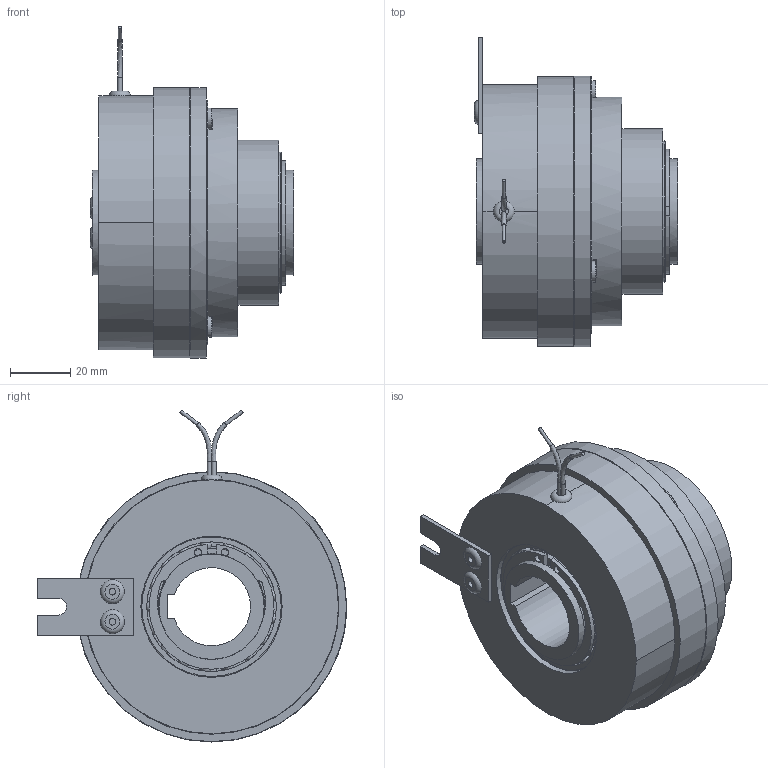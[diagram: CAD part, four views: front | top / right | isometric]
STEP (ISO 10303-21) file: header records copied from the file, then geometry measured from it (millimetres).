
FILE_DESCRIPTION(/* description */ (''),/* implementation_level */ '2;1');
FILE_NAME(/* name */ 'X:\INVENTOR\DISEGNI\08_Freni_Friz_Elettmag_Monodisco\08_26 EMSL_DF\EMSL_DF STEP\08_26_090_41 EMSL090_DF-R@STEP.stp',/* time_stamp */ '2018-04-24T09:46:23+02:00',/* author */ ('stefano'),/* organization */ (''),/* preprocessor_version */ 'ST-DEVELOPER v17',/* originating_system */ 'Autodesk Inventor 2018',/* authorisation */ '');
FILE_SCHEMA (('AUTOMOTIVE_DESIGN { 1 0 10303 214 3 1 1 }'));
Length unit declared in the file: millimetre
Products named in the file (1): 08_26_090_41 EMSL090_DF-R_Substitute_1
Bounding box: 67.6 x 103 x 110.47 mm (x, y, z)
Volume: 237232.9 mm3; surface area: 86469.7 mm2
Topology: 2 solids, 2 shells, 683 faces, 2434 edges, 1598 vertices
Faces by surface type: cylinder 221, plane 220, torus 153, sphere 68, cone 19, bspline 2
Full cylindrical faces by diameter (mm): 1.154 x2, 1.5 x4, 2.2 x2, 2.5 x8, 4.134 x6, 5.1 x9, 6 x1, 7 x3, 9.5 x3, 33 x1, 35 x5, 38.84 x8, 39 x3, 40 x1, 42 x1, 43.16 x8, 46.7 x1, 47 x8, 54 x1, 55 x1, 76 x1, 80 x1, 84.8 x1, 89.8 x1, 90 x1
Entity records: 33204 total; most frequent: CARTESIAN_POINT 12053, ORIENTED_EDGE 4598, DIRECTION 4407, EDGE_CURVE 2299, AXIS2_PLACEMENT_3D 1999, VERTEX_POINT 1599, CIRCLE 1317, EDGE_LOOP 913
